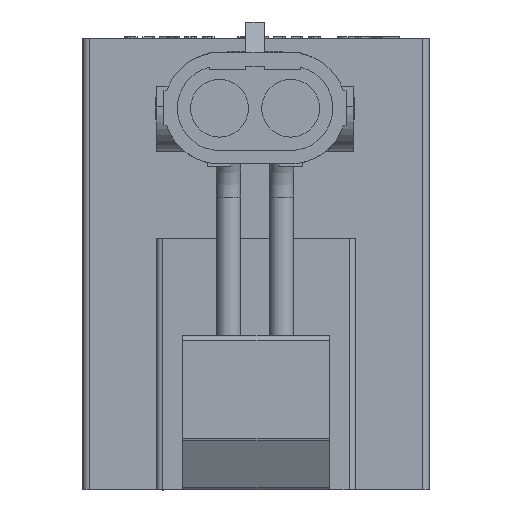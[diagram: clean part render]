
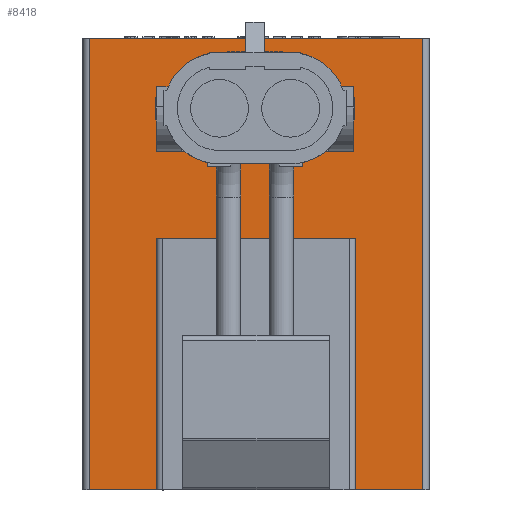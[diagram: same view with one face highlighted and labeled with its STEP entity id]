
A CAD part, front view. The second image highlights one B-rep face of the part: STEP entity #8418.
In plain terms, the highlighted planar face has unit normal (0, -1, 0).
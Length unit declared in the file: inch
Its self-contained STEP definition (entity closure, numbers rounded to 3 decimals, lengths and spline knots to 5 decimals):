
#8221=CARTESIAN_POINT('',(-0.44964,-1.055,1.249));
#8222=VERTEX_POINT('',#8221);
#8229=CARTESIAN_POINT('',(-0.44964,-1.055,0.119));
#8230=VERTEX_POINT('',#8229);
#8231=CARTESIAN_POINT('',(-0.44964,-1.055,0.119));
#8232=DIRECTION('',(0.0,0.0,1.0));
#8233=VECTOR('',#8232,1.13);
#8234=LINE('',#8231,#8233);
#8235=EDGE_CURVE('',#8230,#8222,#8234,.T.);
#8252=CARTESIAN_POINT('',(0.44964,-1.055,1.249));
#8253=VERTEX_POINT('',#8252);
#8261=CARTESIAN_POINT('',(0.44964,-1.055,0.119));
#8262=VERTEX_POINT('',#8261);
#8269=CARTESIAN_POINT('',(0.44964,-1.055,1.249));
#8270=DIRECTION('',(0.0,0.0,-1.0));
#8271=VECTOR('',#8270,1.13);
#8272=LINE('',#8269,#8271);
#8273=EDGE_CURVE('',#8253,#8262,#8272,.T.);
#8285=CARTESIAN_POINT('',(-0.44964,-1.055,1.249));
#8286=DIRECTION('',(1.0,0.0,0.0));
#8287=VECTOR('',#8286,0.89928);
#8288=LINE('',#8285,#8287);
#8289=EDGE_CURVE('',#8222,#8253,#8288,.T.);
#8370=CARTESIAN_POINT('',(-0.74998,-1.055,2.149));
#8371=DIRECTION('',(0.0,-1.0,0.0));
#8372=DIRECTION('',(0.0,0.0,1.0));
#8373=AXIS2_PLACEMENT_3D('',#8370,#8371,#8372);
#8374=PLANE('',#8373);
#8375=ORIENTED_EDGE('',*,*,#8273,.T.);
#8376=CARTESIAN_POINT('',(0.74998,-1.055,0.119));
#8377=VERTEX_POINT('',#8376);
#8378=CARTESIAN_POINT('',(0.44964,-1.055,0.119));
#8379=DIRECTION('',(1.0,0.0,0.0));
#8380=VECTOR('',#8379,0.30034);
#8381=LINE('',#8378,#8380);
#8382=EDGE_CURVE('',#8262,#8377,#8381,.T.);
#8383=ORIENTED_EDGE('',*,*,#8382,.T.);
#8384=CARTESIAN_POINT('',(0.74998,-1.055,2.149));
#8385=VERTEX_POINT('',#8384);
#8386=CARTESIAN_POINT('',(0.74998,-1.055,2.149));
#8387=DIRECTION('',(0.0,0.0,-1.0));
#8388=VECTOR('',#8387,2.03);
#8389=LINE('',#8386,#8388);
#8390=EDGE_CURVE('',#8385,#8377,#8389,.T.);
#8391=ORIENTED_EDGE('',*,*,#8390,.F.);
#8392=CARTESIAN_POINT('',(-0.74998,-1.055,2.149));
#8393=VERTEX_POINT('',#8392);
#8394=CARTESIAN_POINT('',(0.74998,-1.055,2.149));
#8395=DIRECTION('',(-1.0,0.0,0.0));
#8396=VECTOR('',#8395,1.49996);
#8397=LINE('',#8394,#8396);
#8398=EDGE_CURVE('',#8385,#8393,#8397,.T.);
#8399=ORIENTED_EDGE('',*,*,#8398,.T.);
#8400=CARTESIAN_POINT('',(-0.74998,-1.055,0.119));
#8401=VERTEX_POINT('',#8400);
#8402=CARTESIAN_POINT('',(-0.74998,-1.055,2.149));
#8403=DIRECTION('',(0.0,0.0,-1.0));
#8404=VECTOR('',#8403,2.03);
#8405=LINE('',#8402,#8404);
#8406=EDGE_CURVE('',#8393,#8401,#8405,.T.);
#8407=ORIENTED_EDGE('',*,*,#8406,.T.);
#8408=CARTESIAN_POINT('',(-0.74998,-1.055,0.119));
#8409=DIRECTION('',(1.0,0.0,0.0));
#8410=VECTOR('',#8409,0.30034);
#8411=LINE('',#8408,#8410);
#8412=EDGE_CURVE('',#8401,#8230,#8411,.T.);
#8413=ORIENTED_EDGE('',*,*,#8412,.T.);
#8414=ORIENTED_EDGE('',*,*,#8235,.T.);
#8415=ORIENTED_EDGE('',*,*,#8289,.T.);
#8416=EDGE_LOOP('',(#8375,#8383,#8391,#8399,#8407,#8413,#8414,#8415));
#8417=FACE_OUTER_BOUND('',#8416,.T.);
#8418=ADVANCED_FACE('',(#8417),#8374,.T.);
